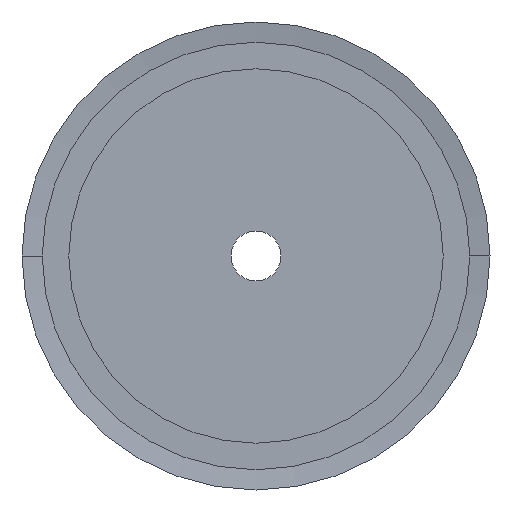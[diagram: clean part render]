
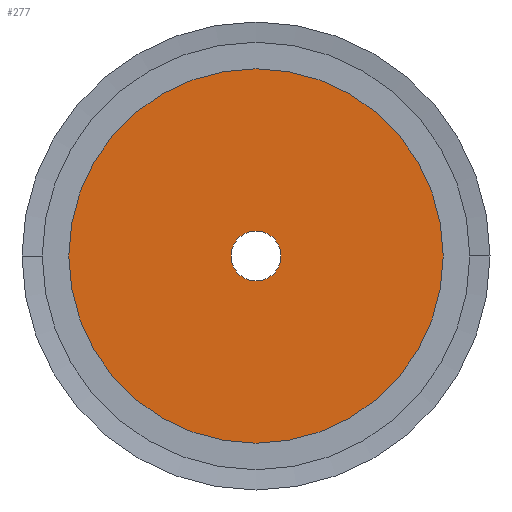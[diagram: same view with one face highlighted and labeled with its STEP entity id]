
A CAD part, left-side view. The second image highlights one B-rep face of the part: STEP entity #277.
In plain terms, the highlighted planar face has unit normal (-1, 0, 0).
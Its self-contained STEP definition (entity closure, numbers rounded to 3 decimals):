
#277 = ADVANCED_FACE( '', ( #689, #690 ), #691, .T. );
#689 = FACE_BOUND( '', #1102, .T. );
#690 = FACE_OUTER_BOUND( '', #1103, .T. );
#691 = PLANE( '', #1104 );
#1102 = EDGE_LOOP( '', ( #2867, #2868 ) );
#1103 = EDGE_LOOP( '', ( #2869, #2870 ) );
#1104 = AXIS2_PLACEMENT_3D( '', #2871, #2872, #2873 );
#2867 = ORIENTED_EDGE( '', *, *, #3448, .F. );
#2868 = ORIENTED_EDGE( '', *, *, #2889, .F. );
#2869 = ORIENTED_EDGE( '', *, *, #2877, .T. );
#2870 = ORIENTED_EDGE( '', *, *, #3453, .T. );
#2871 = CARTESIAN_POINT( '', ( 0., 17., 0. ) );
#2872 = DIRECTION( '', ( -1., 0., 0. ) );
#2873 = DIRECTION( '', ( 0., 1., 0. ) );
#2877 = EDGE_CURVE( '', #3455, #3459, #3461, .T. );
#2889 = EDGE_CURVE( '', #3483, #3479, #3485, .T. );
#3448 = EDGE_CURVE( '', #3479, #3483, #4412, .T. );
#3453 = EDGE_CURVE( '', #3459, #3455, #4417, .T. );
#3455 = VERTEX_POINT( '', #4419 );
#3459 = VERTEX_POINT( '', #4424 );
#3461 = CIRCLE( '', #4427, 30. );
#3479 = VERTEX_POINT( '', #4449 );
#3483 = VERTEX_POINT( '', #4454 );
#3485 = CIRCLE( '', #4457, 4. );
#4412 = CIRCLE( '', #5704, 4. );
#4417 = CIRCLE( '', #5709, 30. );
#4419 = CARTESIAN_POINT( '', ( 0., 30., 0. ) );
#4424 = CARTESIAN_POINT( '', ( 0., -30., 0. ) );
#4427 = AXIS2_PLACEMENT_3D( '', #5715, #5716, #5717 );
#4449 = CARTESIAN_POINT( '', ( 0., 4., 0. ) );
#4454 = CARTESIAN_POINT( '', ( 0., -4., 0. ) );
#4457 = AXIS2_PLACEMENT_3D( '', #5739, #5740, #5741 );
#5704 = AXIS2_PLACEMENT_3D( '', #6776, #6777, #6778 );
#5709 = AXIS2_PLACEMENT_3D( '', #6791, #6792, #6793 );
#5715 = CARTESIAN_POINT( '', ( 0., 0., 0. ) );
#5716 = DIRECTION( '', ( -1., 0., 0. ) );
#5717 = DIRECTION( '', ( 0., 1., 0. ) );
#5739 = CARTESIAN_POINT( '', ( 0., 0., 0. ) );
#5740 = DIRECTION( '', ( -1., 0., 0. ) );
#5741 = DIRECTION( '', ( 0., 1., 0. ) );
#6776 = CARTESIAN_POINT( '', ( 0., 0., 0. ) );
#6777 = DIRECTION( '', ( -1., 0., 0. ) );
#6778 = DIRECTION( '', ( 0., 1., 0. ) );
#6791 = CARTESIAN_POINT( '', ( 0., 0., 0. ) );
#6792 = DIRECTION( '', ( -1., 0., 0. ) );
#6793 = DIRECTION( '', ( 0., 1., 0. ) );
